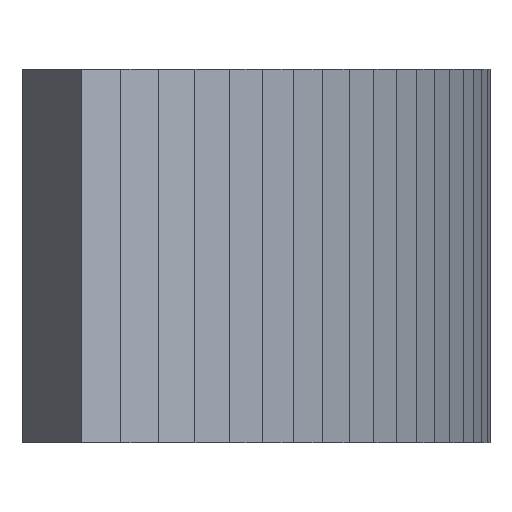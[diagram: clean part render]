
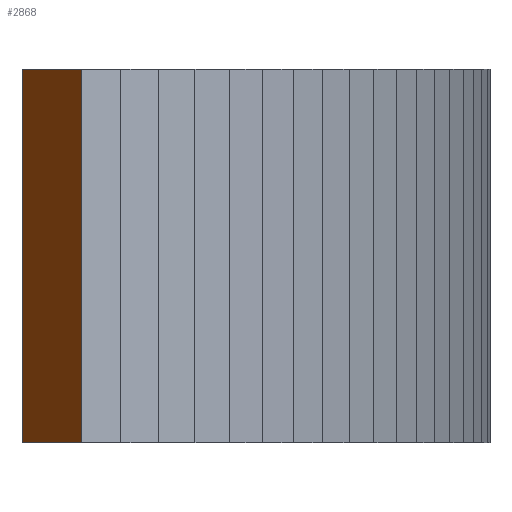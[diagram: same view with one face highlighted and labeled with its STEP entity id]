
A CAD part, left-side view. The second image highlights one B-rep face of the part: STEP entity #2868.
In plain terms, the highlighted planar face has unit normal (-0.53, 0.848, 0).
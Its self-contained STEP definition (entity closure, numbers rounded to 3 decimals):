
#21 = EDGE_CURVE('',#22,#24,#26,.T.);
#22 = VERTEX_POINT('',#23);
#23 = CARTESIAN_POINT('',(47.74,104.566,14.));
#24 = VERTEX_POINT('',#25);
#25 = CARTESIAN_POINT('',(47.74,104.566,24.));
#26 = SURFACE_CURVE('',#27,(#31,#43),.PCURVE_S1.);
#27 = LINE('',#28,#29);
#28 = CARTESIAN_POINT('',(47.74,104.566,14.));
#29 = VECTOR('',#30,1.);
#30 = DIRECTION('',(0.,0.,1.));
#31 = PCURVE('',#32,#37);
#32 = PLANE('',#33);
#33 = AXIS2_PLACEMENT_3D('',#34,#35,#36);
#34 = CARTESIAN_POINT('',(47.74,104.566,14.));
#35 = DIRECTION('',(0.833,0.553,-0.));
#36 = DIRECTION('',(0.553,-0.833,0.));
#37 = DEFINITIONAL_REPRESENTATION('',(#38),#42);
#38 = LINE('',#39,#40);
#39 = CARTESIAN_POINT('',(0.,0.));
#40 = VECTOR('',#41,1.);
#41 = DIRECTION('',(0.,-1.));
#42 = ( GEOMETRIC_REPRESENTATION_CONTEXT(2) 
PARAMETRIC_REPRESENTATION_CONTEXT() REPRESENTATION_CONTEXT('2D SPACE',''
  ) );
#43 = PCURVE('',#44,#49);
#44 = PLANE('',#45);
#45 = AXIS2_PLACEMENT_3D('',#46,#47,#48);
#46 = CARTESIAN_POINT('',(50.285,106.156,14.));
#47 = DIRECTION('',(0.53,-0.848,0.));
#48 = DIRECTION('',(-0.848,-0.53,0.));
#49 = DEFINITIONAL_REPRESENTATION('',(#50),#54);
#50 = LINE('',#51,#52);
#51 = CARTESIAN_POINT('',(3.,0.));
#52 = VECTOR('',#53,1.);
#53 = DIRECTION('',(0.,-1.));
#54 = ( GEOMETRIC_REPRESENTATION_CONTEXT(2) 
PARAMETRIC_REPRESENTATION_CONTEXT() REPRESENTATION_CONTEXT('2D SPACE',''
  ) );
#72 = PLANE('',#73);
#73 = AXIS2_PLACEMENT_3D('',#74,#75,#76);
#74 = CARTESIAN_POINT('',(57.092,98.886,24.));
#75 = DIRECTION('',(0.,0.,1.));
#76 = DIRECTION('',(1.,0.,-0.));
#126 = PLANE('',#127);
#127 = AXIS2_PLACEMENT_3D('',#128,#129,#130);
#128 = CARTESIAN_POINT('',(57.092,98.886,14.));
#129 = DIRECTION('',(0.,0.,1.));
#130 = DIRECTION('',(1.,0.,-0.));
#2765 = PLANE('',#2766);
#2766 = AXIS2_PLACEMENT_3D('',#2767,#2768,#2769);
#2767 = CARTESIAN_POINT('',(50.894,105.238,14.));
#2768 = DIRECTION('',(-0.833,-0.553,0.));
#2769 = DIRECTION('',(-0.553,0.833,0.));
#2803 = VERTEX_POINT('',#2804);
#2804 = CARTESIAN_POINT('',(50.285,106.156,24.));
#2825 = EDGE_CURVE('',#2826,#2803,#2828,.T.);
#2826 = VERTEX_POINT('',#2827);
#2827 = CARTESIAN_POINT('',(50.285,106.156,14.));
#2828 = SURFACE_CURVE('',#2829,(#2833,#2840),.PCURVE_S1.);
#2829 = LINE('',#2830,#2831);
#2830 = CARTESIAN_POINT('',(50.285,106.156,14.));
#2831 = VECTOR('',#2832,1.);
#2832 = DIRECTION('',(0.,0.,1.));
#2833 = PCURVE('',#2765,#2834);
#2834 = DEFINITIONAL_REPRESENTATION('',(#2835),#2839);
#2835 = LINE('',#2836,#2837);
#2836 = CARTESIAN_POINT('',(1.102,0.));
#2837 = VECTOR('',#2838,1.);
#2838 = DIRECTION('',(0.,-1.));
#2839 = ( GEOMETRIC_REPRESENTATION_CONTEXT(2) 
PARAMETRIC_REPRESENTATION_CONTEXT() REPRESENTATION_CONTEXT('2D SPACE',''
  ) );
#2840 = PCURVE('',#44,#2841);
#2841 = DEFINITIONAL_REPRESENTATION('',(#2842),#2846);
#2842 = LINE('',#2843,#2844);
#2843 = CARTESIAN_POINT('',(0.,0.));
#2844 = VECTOR('',#2845,1.);
#2845 = DIRECTION('',(0.,-1.));
#2846 = ( GEOMETRIC_REPRESENTATION_CONTEXT(2) 
PARAMETRIC_REPRESENTATION_CONTEXT() REPRESENTATION_CONTEXT('2D SPACE',''
  ) );
#2868 = ADVANCED_FACE('',(#2869),#44,.F.);
#2869 = FACE_BOUND('',#2870,.F.);
#2870 = EDGE_LOOP('',(#2871,#2872,#2893,#2894));
#2871 = ORIENTED_EDGE('',*,*,#2825,.T.);
#2872 = ORIENTED_EDGE('',*,*,#2873,.T.);
#2873 = EDGE_CURVE('',#2803,#24,#2874,.T.);
#2874 = SURFACE_CURVE('',#2875,(#2879,#2886),.PCURVE_S1.);
#2875 = LINE('',#2876,#2877);
#2876 = CARTESIAN_POINT('',(50.285,106.156,24.));
#2877 = VECTOR('',#2878,1.);
#2878 = DIRECTION('',(-0.848,-0.53,0.));
#2879 = PCURVE('',#44,#2880);
#2880 = DEFINITIONAL_REPRESENTATION('',(#2881),#2885);
#2881 = LINE('',#2882,#2883);
#2882 = CARTESIAN_POINT('',(0.,-10.));
#2883 = VECTOR('',#2884,1.);
#2884 = DIRECTION('',(1.,0.));
#2885 = ( GEOMETRIC_REPRESENTATION_CONTEXT(2) 
PARAMETRIC_REPRESENTATION_CONTEXT() REPRESENTATION_CONTEXT('2D SPACE',''
  ) );
#2886 = PCURVE('',#72,#2887);
#2887 = DEFINITIONAL_REPRESENTATION('',(#2888),#2892);
#2888 = LINE('',#2889,#2890);
#2889 = CARTESIAN_POINT('',(-6.807,7.27));
#2890 = VECTOR('',#2891,1.);
#2891 = DIRECTION('',(-0.848,-0.53));
#2892 = ( GEOMETRIC_REPRESENTATION_CONTEXT(2) 
PARAMETRIC_REPRESENTATION_CONTEXT() REPRESENTATION_CONTEXT('2D SPACE',''
  ) );
#2893 = ORIENTED_EDGE('',*,*,#21,.F.);
#2894 = ORIENTED_EDGE('',*,*,#2895,.F.);
#2895 = EDGE_CURVE('',#2826,#22,#2896,.T.);
#2896 = SURFACE_CURVE('',#2897,(#2901,#2908),.PCURVE_S1.);
#2897 = LINE('',#2898,#2899);
#2898 = CARTESIAN_POINT('',(50.285,106.156,14.));
#2899 = VECTOR('',#2900,1.);
#2900 = DIRECTION('',(-0.848,-0.53,0.));
#2901 = PCURVE('',#44,#2902);
#2902 = DEFINITIONAL_REPRESENTATION('',(#2903),#2907);
#2903 = LINE('',#2904,#2905);
#2904 = CARTESIAN_POINT('',(0.,0.));
#2905 = VECTOR('',#2906,1.);
#2906 = DIRECTION('',(1.,0.));
#2907 = ( GEOMETRIC_REPRESENTATION_CONTEXT(2) 
PARAMETRIC_REPRESENTATION_CONTEXT() REPRESENTATION_CONTEXT('2D SPACE',''
  ) );
#2908 = PCURVE('',#126,#2909);
#2909 = DEFINITIONAL_REPRESENTATION('',(#2910),#2914);
#2910 = LINE('',#2911,#2912);
#2911 = CARTESIAN_POINT('',(-6.807,7.27));
#2912 = VECTOR('',#2913,1.);
#2913 = DIRECTION('',(-0.848,-0.53));
#2914 = ( GEOMETRIC_REPRESENTATION_CONTEXT(2) 
PARAMETRIC_REPRESENTATION_CONTEXT() REPRESENTATION_CONTEXT('2D SPACE',''
  ) );
